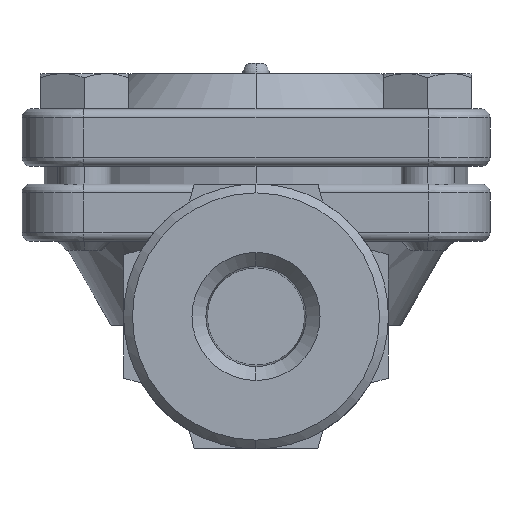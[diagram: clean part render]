
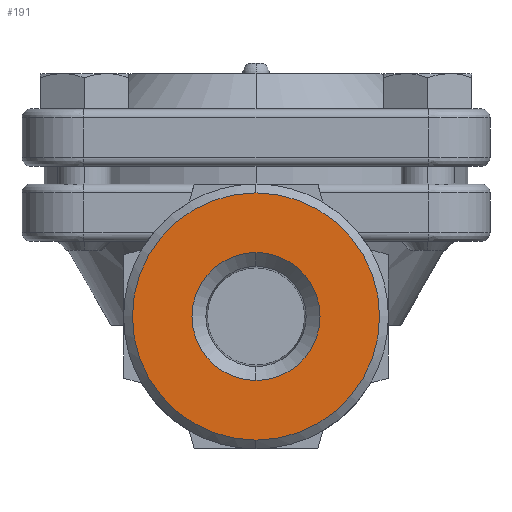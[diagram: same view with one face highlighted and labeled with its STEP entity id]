
A CAD part, left-side view. The second image highlights one B-rep face of the part: STEP entity #191.
In plain terms, the highlighted planar face has unit normal (-1, 0, 0).
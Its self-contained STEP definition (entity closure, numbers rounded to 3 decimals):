
#191=ADVANCED_FACE('',(#1812,#1813),#1811,.F.);
#1811=PLANE('',#3938);
#1812=FACE_OUTER_BOUND('',#3939,.T.);
#1813=FACE_BOUND('',#3940,.T.);
#3935=CARTESIAN_POINT('',(-37.5,-29.098,18.2));
#3936=DIRECTION('',(1.,0.,0.));
#3937=DIRECTION('',(0.,0.,-1.));
#3938=AXIS2_PLACEMENT_3D('',#3935,#3936,#3937);
#3939=EDGE_LOOP('',(#5390,#5391));
#3940=EDGE_LOOP('',(#5392,#5393));
#5390=ORIENTED_EDGE('',*,*,#6235,.T.);
#5391=ORIENTED_EDGE('',*,*,#6236,.T.);
#5392=ORIENTED_EDGE('',*,*,#6237,.F.);
#5393=ORIENTED_EDGE('',*,*,#6238,.F.);
#6235=EDGE_CURVE('',#9313,#9314,#9315,.T.);
#6236=EDGE_CURVE('',#9314,#9313,#9321,.T.);
#6237=EDGE_CURVE('',#9327,#9328,#9329,.T.);
#6238=EDGE_CURVE('',#9328,#9327,#9335,.T.);
#9313=VERTEX_POINT('',#12178);
#9314=VERTEX_POINT('',#12179);
#9315=CIRCLE('',#12183,14.);
#9321=CIRCLE('',#12187,14.);
#9327=VERTEX_POINT('',#12188);
#9328=VERTEX_POINT('',#12189);
#9329=CIRCLE('',#12193,7.25);
#9335=CIRCLE('',#12197,7.25);
#12178=CARTESIAN_POINT('',(-37.5,0.,14.));
#12179=CARTESIAN_POINT('',(-37.5,0.,-14.));
#12180=CARTESIAN_POINT('',(-37.5,0.,0.));
#12181=DIRECTION('',(-1.,0.,0.));
#12182=DIRECTION('',(0.,0.,1.));
#12183=AXIS2_PLACEMENT_3D('',#12180,#12181,#12182);
#12184=CARTESIAN_POINT('',(-37.5,0.,0.));
#12185=DIRECTION('',(-1.,0.,0.));
#12186=DIRECTION('',(0.,0.,1.));
#12187=AXIS2_PLACEMENT_3D('',#12184,#12185,#12186);
#12188=CARTESIAN_POINT('',(-37.5,0.,-7.25));
#12189=CARTESIAN_POINT('',(-37.5,0.,7.25));
#12190=CARTESIAN_POINT('',(-37.5,0.,0.));
#12191=DIRECTION('',(-1.,0.,0.));
#12192=DIRECTION('',(0.,0.,1.));
#12193=AXIS2_PLACEMENT_3D('',#12190,#12191,#12192);
#12194=CARTESIAN_POINT('',(-37.5,0.,0.));
#12195=DIRECTION('',(-1.,0.,0.));
#12196=DIRECTION('',(0.,0.,1.));
#12197=AXIS2_PLACEMENT_3D('',#12194,#12195,#12196);
